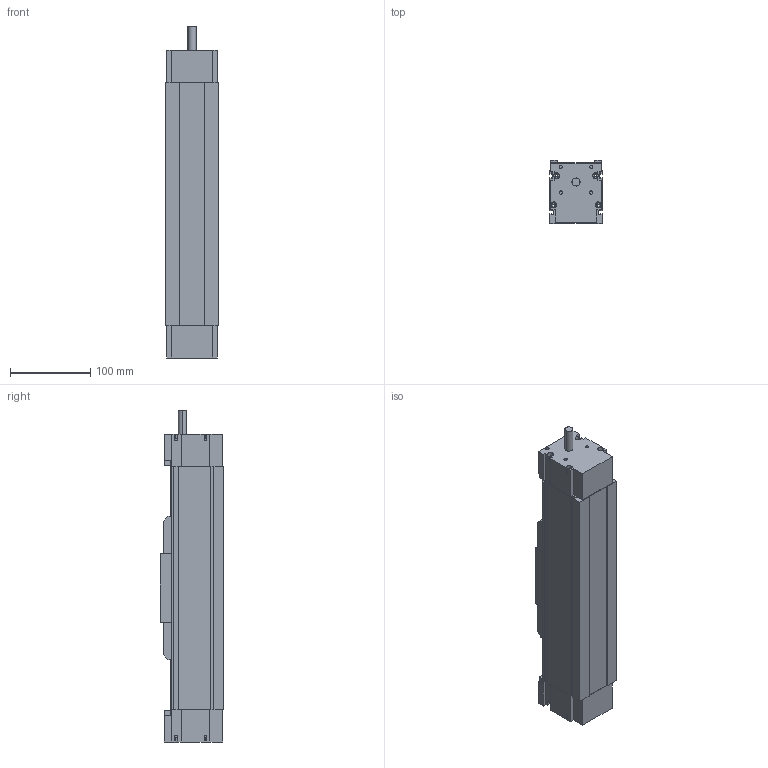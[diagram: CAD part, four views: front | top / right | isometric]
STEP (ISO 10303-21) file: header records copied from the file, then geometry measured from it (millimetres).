
FILE_DESCRIPTION (( 'STEP AP203' ), '1' );
FILE_NAME ('MSX65B-60-LL1616-P7.STEP', '2013-11-02T02:58:34', ( '微软用户' ), ( '微软中国' ), 'SwSTEP 2.0', 'SolidWorks 2010', '' );
FILE_SCHEMA (( 'CONFIG_CONTROL_DESIGN' ));
Length unit declared in the file: millimetre
Products named in the file (1): MSX65B-60-LL1616-P7
Bounding box: 65 x 79 x 414 mm (x, y, z)
Volume: 1627790.3 mm3; surface area: 216481.7 mm2
Topology: 2 solids, 2 shells, 405 faces, 1036 edges, 638 vertices
Faces by surface type: plane 319, cylinder 66, cone 20
Entity records: 12073 total; most frequent: DIRECTION 2080, CARTESIAN_POINT 2068, ORIENTED_EDGE 2048, EDGE_CURVE 1024, VECTOR 780, LINE 780, AXIS2_PLACEMENT_3D 650, VERTEX_POINT 638
